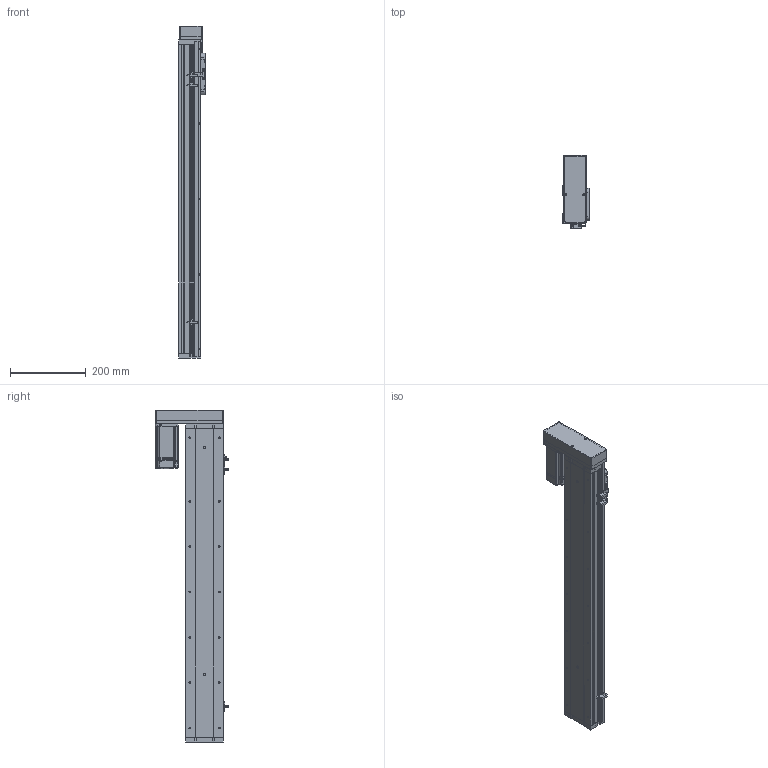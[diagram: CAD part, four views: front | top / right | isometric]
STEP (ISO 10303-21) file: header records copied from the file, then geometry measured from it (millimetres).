
FILE_DESCRIPTION (( 'STEP AP214' ), '1' );
FILE_NAME ('KSD100S-S650-ML-CR.STEP', '2019-09-02T08:18:15', ( '微软用户' ), ( '微软中国' ), 'SwSTEP 2.0', 'SolidWorks 2014', '' );
FILE_SCHEMA (( 'AUTOMOTIVE_DESIGN' ));
Length unit declared in the file: millimetre
Products named in the file (14): U倰嫖萇EEㄜSX672; 感应片100宽全封闭; 100宽马达安装板全封闭; 100宽端板全封闭; 100宽滚珠螺姆安装板1防护罩; 100宽滚珠螺姆安装板1; 100遵裔啣揤啣; 100遵裔啣650俴最; 100遵耜啣650俴最佪裝; 100宽底板全封闭650行程丝杆; KSD100S-S650-ML-CR; MHMD042G1CA_2_03; 悵誘欶酘衵殏; 100宽马达安装板连板左右折丝杆
Assembly tree (17 placements, depth 2):
  KSD100S-S650-ML-CR
    100宽底板全封闭650行程丝杆
    100遵耜啣650俴最佪裝  x2
    100遵裔啣650俴最
    100遵裔啣揤啣  x2
    100宽滚珠螺姆安装板1
    100宽滚珠螺姆安装板1防护罩
    100宽端板全封闭
    100宽马达安装板全封闭
    感应片100宽全封闭
    U倰嫖萇EEㄜSX672  x3
    100宽马达安装板连板左右折丝杆
    悵誘欶酘衵殏
    MHMD042G1CA_2_03
Bounding box: 70 x 193.7 x 878.5 mm (x, y, z)
Volume: 1806700.4 mm3; surface area: 820255.1 mm2
Topology: 16 solids, 17 shells, 1661 faces, 4628 edges, 2952 vertices
Faces by surface type: cylinder 715, plane 699, cone 229, bspline 18
Entity records: 55434 total; most frequent: CARTESIAN_POINT 8688, DIRECTION 7909, ORIENTED_EDGE 7312, EDGE_CURVE 3728, AXIS2_PLACEMENT_3D 2829, VERTEX_POINT 2470, LINE 2251, VECTOR 2251
